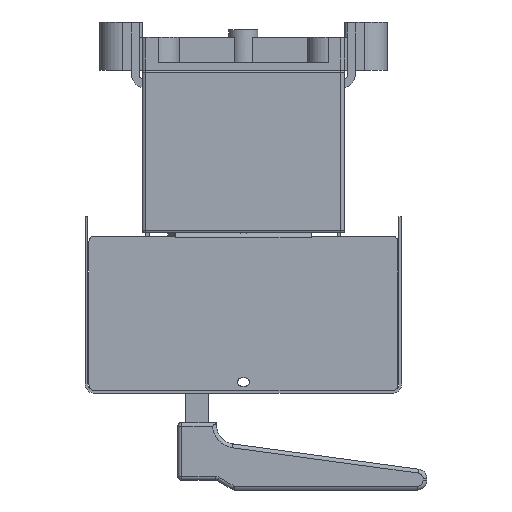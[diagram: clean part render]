
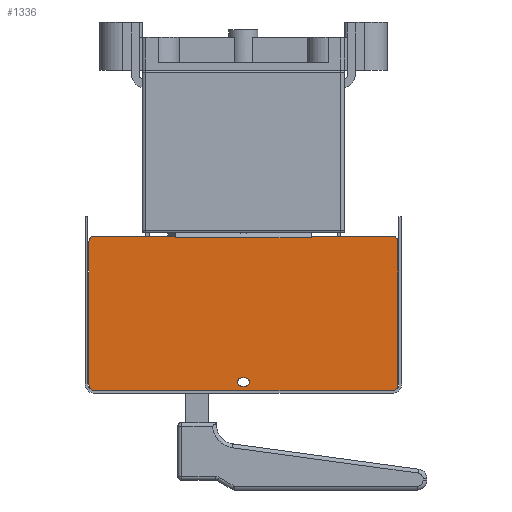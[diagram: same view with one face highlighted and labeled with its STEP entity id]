
A CAD part, left-side view. The second image highlights one B-rep face of the part: STEP entity #1336.
In plain terms, the highlighted planar face has unit normal (-1, 0, 0).
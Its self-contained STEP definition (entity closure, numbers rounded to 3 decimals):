
#188=FACE_BOUND('',#4154,.T.);
#189=FACE_BOUND('',#4155,.T.);
#1336=ADVANCED_FACE('',(#188,#189),#2186,.T.);
#2186=PLANE('',#21199);
#4154=EDGE_LOOP('',(#8915,#8916,#8917,#8918,#8919,#8920,#8921,#8922,#8923,
#8924,#8925,#8926,#8927,#8928));
#4155=EDGE_LOOP('',(#8929,#8930,#8931,#8932));
#5105=CIRCLE('',#21177,2.1);
#5107=CIRCLE('',#21181,2.1);
#5109=CIRCLE('',#21185,3.);
#5111=CIRCLE('',#21188,3.);
#5113=CIRCLE('',#21192,3.);
#5115=CIRCLE('',#21196,3.);
#8915=ORIENTED_EDGE('',*,*,#14871,.F.);
#8916=ORIENTED_EDGE('',*,*,#14872,.T.);
#8917=ORIENTED_EDGE('',*,*,#14873,.T.);
#8918=ORIENTED_EDGE('',*,*,#14874,.T.);
#8919=ORIENTED_EDGE('',*,*,#14875,.F.);
#8920=ORIENTED_EDGE('',*,*,#14863,.T.);
#8921=ORIENTED_EDGE('',*,*,#14868,.T.);
#8922=ORIENTED_EDGE('',*,*,#14851,.T.);
#8923=ORIENTED_EDGE('',*,*,#14854,.T.);
#8924=ORIENTED_EDGE('',*,*,#14829,.T.);
#8925=ORIENTED_EDGE('',*,*,#14857,.T.);
#8926=ORIENTED_EDGE('',*,*,#14860,.T.);
#8927=ORIENTED_EDGE('',*,*,#14862,.T.);
#8928=ORIENTED_EDGE('',*,*,#14837,.T.);
#8929=ORIENTED_EDGE('',*,*,#14841,.T.);
#8930=ORIENTED_EDGE('',*,*,#14845,.T.);
#8931=ORIENTED_EDGE('',*,*,#14848,.T.);
#8932=ORIENTED_EDGE('',*,*,#14870,.T.);
#12032=VERTEX_POINT('',#30069);
#12077=VERTEX_POINT('',#30166);
#12361=VERTEX_POINT('',#31257);
#12362=VERTEX_POINT('',#31259);
#12365=VERTEX_POINT('',#31266);
#12366=VERTEX_POINT('',#31268);
#12368=VERTEX_POINT('',#31274);
#12370=VERTEX_POINT('',#31280);
#12373=VERTEX_POINT('',#31287);
#12374=VERTEX_POINT('',#31289);
#12376=VERTEX_POINT('',#31298);
#12378=VERTEX_POINT('',#31304);
#12379=VERTEX_POINT('',#31311);
#12380=VERTEX_POINT('',#31312);
#12383=VERTEX_POINT('',#31326);
#12384=VERTEX_POINT('',#31328);
#12385=VERTEX_POINT('',#31330);
#12386=VERTEX_POINT('',#31332);
#14829=EDGE_CURVE('',#12032,#12077,#17286,.T.);
#14837=EDGE_CURVE('',#12362,#12361,#17293,.T.);
#14841=EDGE_CURVE('',#12366,#12365,#5105,.T.);
#14845=EDGE_CURVE('',#12365,#12368,#17299,.T.);
#14848=EDGE_CURVE('',#12368,#12370,#5107,.T.);
#14851=EDGE_CURVE('',#12374,#12373,#17303,.T.);
#14854=EDGE_CURVE('',#12373,#12032,#5109,.T.);
#14857=EDGE_CURVE('',#12077,#12376,#5111,.T.);
#14860=EDGE_CURVE('',#12376,#12378,#17308,.T.);
#14862=EDGE_CURVE('',#12378,#12362,#5113,.T.);
#14863=EDGE_CURVE('',#12379,#12380,#17309,.T.);
#14868=EDGE_CURVE('',#12380,#12374,#5115,.T.);
#14870=EDGE_CURVE('',#12370,#12366,#17314,.T.);
#14871=EDGE_CURVE('',#12383,#12361,#17315,.T.);
#14872=EDGE_CURVE('',#12383,#12384,#17316,.T.);
#14873=EDGE_CURVE('',#12384,#12385,#17317,.T.);
#14874=EDGE_CURVE('',#12385,#12386,#17318,.T.);
#14875=EDGE_CURVE('',#12379,#12386,#17319,.T.);
#17286=LINE('',#31240,#19369);
#17293=LINE('',#31258,#19376);
#17299=LINE('',#31275,#19382);
#17303=LINE('',#31288,#19386);
#17308=LINE('',#31305,#19391);
#17309=LINE('',#31310,#19392);
#17314=LINE('',#31323,#19397);
#17315=LINE('',#31325,#19398);
#17316=LINE('',#31327,#19399);
#17317=LINE('',#31329,#19400);
#17318=LINE('',#31331,#19401);
#17319=LINE('',#31333,#19402);
#19369=VECTOR('',#25346,1.);
#19376=VECTOR('',#25359,1.);
#19382=VECTOR('',#25373,1.);
#19386=VECTOR('',#25385,1.);
#19391=VECTOR('',#25404,1.);
#19392=VECTOR('',#25413,1.);
#19397=VECTOR('',#25426,1.);
#19398=VECTOR('',#25429,1.);
#19399=VECTOR('',#25430,1.);
#19400=VECTOR('',#25431,1.);
#19401=VECTOR('',#25432,1.);
#19402=VECTOR('',#25433,1.);
#21177=AXIS2_PLACEMENT_3D('',#31267,#25366,#25367);
#21181=AXIS2_PLACEMENT_3D('',#31281,#25379,#25380);
#21185=AXIS2_PLACEMENT_3D('',#31293,#25391,#25392);
#21188=AXIS2_PLACEMENT_3D('',#31299,#25398,#25399);
#21192=AXIS2_PLACEMENT_3D('',#31308,#25409,#25410);
#21196=AXIS2_PLACEMENT_3D('',#31320,#25421,#25422);
#21199=AXIS2_PLACEMENT_3D('',#31334,#25434,#25435);
#25346=DIRECTION('',(0.,-1.,0.));
#25359=DIRECTION('',(0.,1.,0.));
#25366=DIRECTION('',(1.,0.,0.));
#25367=DIRECTION('',(0.,1.,0.));
#25373=DIRECTION('',(0.,-1.,0.));
#25379=DIRECTION('',(1.,0.,0.));
#25380=DIRECTION('',(0.,1.,0.));
#25385=DIRECTION('',(0.,0.,-1.));
#25391=DIRECTION('',(-1.,0.,0.));
#25392=DIRECTION('',(0.,1.,0.));
#25398=DIRECTION('',(-1.,0.,0.));
#25399=DIRECTION('',(0.,1.,0.));
#25404=DIRECTION('',(0.,0.,1.));
#25409=DIRECTION('',(-1.,0.,0.));
#25410=DIRECTION('',(0.,1.,0.));
#25413=DIRECTION('',(0.,1.,0.));
#25421=DIRECTION('',(-1.,0.,0.));
#25422=DIRECTION('',(0.,1.,0.));
#25426=DIRECTION('',(0.,1.,0.));
#25429=DIRECTION('',(0.,0.,1.));
#25430=DIRECTION('',(0.,1.,0.));
#25431=DIRECTION('',(0.,1.,0.));
#25432=DIRECTION('',(0.,1.,0.));
#25433=DIRECTION('',(0.,0.,-1.));
#25434=DIRECTION('',(-1.,0.,0.));
#25435=DIRECTION('',(0.,-1.,0.));
#30069=CARTESIAN_POINT('',(-189.3,77.,-165.8));
#30166=CARTESIAN_POINT('',(-189.3,-77.,-165.8));
#31240=CARTESIAN_POINT('',(-189.3,77.,-165.8));
#31257=CARTESIAN_POINT('',(-189.3,-35.002,-85.8));
#31258=CARTESIAN_POINT('',(-189.3,-77.,-85.8));
#31259=CARTESIAN_POINT('',(-189.3,-77.,-85.8));
#31266=CARTESIAN_POINT('',(-189.3,1.,-159.3));
#31267=CARTESIAN_POINT('',(-189.3,1.,-161.4));
#31268=CARTESIAN_POINT('',(-189.3,1.,-163.5));
#31274=CARTESIAN_POINT('',(-189.3,-1.,-159.3));
#31275=CARTESIAN_POINT('',(-189.3,1.,-159.3));
#31280=CARTESIAN_POINT('',(-189.3,-1.,-163.5));
#31281=CARTESIAN_POINT('',(-189.3,-1.,-161.4));
#31287=CARTESIAN_POINT('',(-189.3,80.,-162.8));
#31288=CARTESIAN_POINT('',(-189.3,80.,-88.8));
#31289=CARTESIAN_POINT('',(-189.3,80.,-88.8));
#31293=CARTESIAN_POINT('',(-189.3,77.,-162.8));
#31298=CARTESIAN_POINT('',(-189.3,-80.,-162.8));
#31299=CARTESIAN_POINT('',(-189.3,-77.,-162.8));
#31304=CARTESIAN_POINT('',(-189.3,-80.,-88.8));
#31305=CARTESIAN_POINT('',(-189.3,-80.,-162.8));
#31308=CARTESIAN_POINT('',(-189.3,-77.,-88.8));
#31310=CARTESIAN_POINT('',(-189.3,-77.,-85.8));
#31311=CARTESIAN_POINT('',(-189.3,35.002,-85.8));
#31312=CARTESIAN_POINT('',(-189.3,77.,-85.8));
#31320=CARTESIAN_POINT('',(-189.3,77.,-88.8));
#31323=CARTESIAN_POINT('',(-189.3,-1.,-163.5));
#31325=CARTESIAN_POINT('',(-189.3,-35.002,-162.8));
#31326=CARTESIAN_POINT('',(-189.3,-35.002,-86.8));
#31327=CARTESIAN_POINT('',(-189.3,77.,-86.8));
#31328=CARTESIAN_POINT('',(-189.3,-35.,-86.8));
#31329=CARTESIAN_POINT('',(-189.3,50.5,-86.8));
#31330=CARTESIAN_POINT('',(-189.3,35.,-86.8));
#31331=CARTESIAN_POINT('',(-189.3,77.,-86.8));
#31332=CARTESIAN_POINT('',(-189.3,35.002,-86.8));
#31333=CARTESIAN_POINT('',(-189.3,35.002,-162.8));
#31334=CARTESIAN_POINT('',(-189.3,77.,-162.8));
